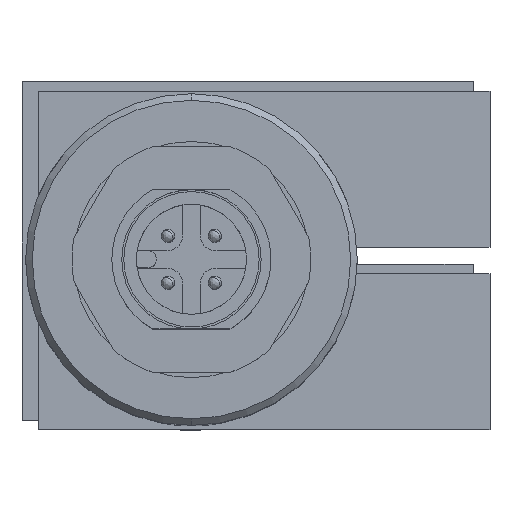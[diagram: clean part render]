
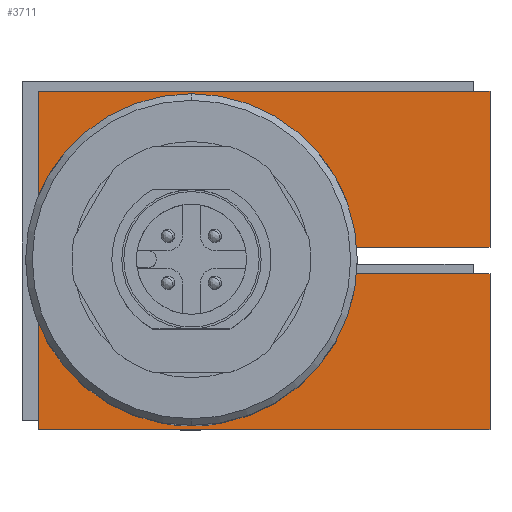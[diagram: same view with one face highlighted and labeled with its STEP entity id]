
A CAD part, top view. The second image highlights one B-rep face of the part: STEP entity #3711.
In plain terms, the highlighted planar face has unit normal (0, 0, 1).
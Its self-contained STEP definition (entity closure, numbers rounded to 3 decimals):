
#5 = EDGE_CURVE ( 'NONE', #8824, #1997, #2576, .T. ) ;
#9 = CARTESIAN_POINT ( 'NONE',  ( 0., 0., 6.5 ) ) ;
#60 = AXIS2_PLACEMENT_3D ( 'NONE', #8881, #8057, #2096 ) ;
#245 = LINE ( 'NONE', #1201, #9415 ) ;
#268 = CARTESIAN_POINT ( 'NONE',  ( 1., 9.397, 6.5 ) ) ;
#273 = CIRCLE ( 'NONE', #2871, 9.45 ) ;
#607 = CARTESIAN_POINT ( 'NONE',  ( 0., 0., 6.5 ) ) ;
#1064 = LINE ( 'NONE', #6026, #10235 ) ;
#1201 = CARTESIAN_POINT ( 'NONE',  ( -1., 9.397, 6.5 ) ) ;
#1236 = DIRECTION ( 'NONE',  ( 1., 0., 0. ) ) ;
#1545 = CARTESIAN_POINT ( 'NONE',  ( -1., 22.5, 6.5 ) ) ;
#1997 = VERTEX_POINT ( 'NONE', #7879 ) ;
#1999 = EDGE_CURVE ( 'NONE', #1997, #3029, #1064, .T. ) ;
#2019 = VECTOR ( 'NONE', #8286, 1000. ) ;
#2096 = DIRECTION ( 'NONE',  ( 1., 0., 0. ) ) ;
#2149 = CARTESIAN_POINT ( 'NONE',  ( -1., 9.397, 6.5 ) ) ;
#2212 = EDGE_CURVE ( 'NONE', #5196, #4383, #6785, .T. ) ;
#2576 = LINE ( 'NONE', #8667, #4838 ) ;
#2847 = CARTESIAN_POINT ( 'NONE',  ( 1., 9.397, 6.5 ) ) ;
#2852 = CIRCLE ( 'NONE', #8433, 9.45 ) ;
#2871 = AXIS2_PLACEMENT_3D ( 'NONE', #6399, #10047, #7434 ) ;
#2986 = AXIS2_PLACEMENT_3D ( 'NONE', #9, #5369, #1236 ) ;
#3029 = VERTEX_POINT ( 'NONE', #7183 ) ;
#3213 = FACE_OUTER_BOUND ( 'NONE', #5619, .T. ) ;
#3353 = ORIENTED_EDGE ( 'NONE', *, *, #5, .T. ) ;
#3367 = DIRECTION ( 'NONE',  ( 0., 1., 0. ) ) ;
#3451 = VERTEX_POINT ( 'NONE', #1545 ) ;
#3512 = CARTESIAN_POINT ( 'NONE',  ( -12.75, -11.5, 6.5 ) ) ;
#3560 = PLANE ( 'NONE',  #60 ) ;
#3636 = EDGE_CURVE ( 'NONE', #3451, #3672, #8776, .T. ) ;
#3672 = VERTEX_POINT ( 'NONE', #7339 ) ;
#3711 = ADVANCED_FACE ( 'NONE', ( #3213 ), #3560, .T. ) ;
#3744 = VECTOR ( 'NONE', #11291, 1000. ) ;
#3747 = ORIENTED_EDGE ( 'NONE', *, *, #1999, .T. ) ;
#4310 = VECTOR ( 'NONE', #6264, 1000. ) ;
#4383 = VERTEX_POINT ( 'NONE', #268 ) ;
#4386 = EDGE_CURVE ( 'NONE', #6234, #5641, #273, .T. ) ;
#4415 = CARTESIAN_POINT ( 'NONE',  ( -9.45, 0., 6.5 ) ) ;
#4586 = ORIENTED_EDGE ( 'NONE', *, *, #6146, .T. ) ;
#4705 = EDGE_CURVE ( 'NONE', #3029, #5196, #11099, .T. ) ;
#4833 = EDGE_CURVE ( 'NONE', #3672, #8824, #5547, .T. ) ;
#4838 = VECTOR ( 'NONE', #10792, 1000. ) ;
#4945 = CARTESIAN_POINT ( 'NONE',  ( 9.45, 0., 6.5 ) ) ;
#5060 = CARTESIAN_POINT ( 'NONE',  ( -12.75, 22.5, 6.5 ) ) ;
#5196 = VERTEX_POINT ( 'NONE', #5316 ) ;
#5316 = CARTESIAN_POINT ( 'NONE',  ( 1., 22.5, 6.5 ) ) ;
#5369 = DIRECTION ( 'NONE',  ( 0., 0., -1. ) ) ;
#5507 = VERTEX_POINT ( 'NONE', #4945 ) ;
#5547 = LINE ( 'NONE', #10892, #10266 ) ;
#5619 = EDGE_LOOP ( 'NONE', ( #3747, #10689, #6239, #8426, #8584, #7451, #4586, #8758, #6523, #3353 ) ) ;
#5641 = VERTEX_POINT ( 'NONE', #2149 ) ;
#5844 = DIRECTION ( 'NONE',  ( 0., -1., 0. ) ) ;
#6026 = CARTESIAN_POINT ( 'NONE',  ( 12.75, -11.5, 6.5 ) ) ;
#6146 = EDGE_CURVE ( 'NONE', #5641, #3451, #245, .T. ) ;
#6234 = VERTEX_POINT ( 'NONE', #4415 ) ;
#6239 = ORIENTED_EDGE ( 'NONE', *, *, #2212, .T. ) ;
#6264 = DIRECTION ( 'NONE',  ( -1., 0., 0. ) ) ;
#6316 = CIRCLE ( 'NONE', #2986, 9.45 ) ;
#6399 = CARTESIAN_POINT ( 'NONE',  ( 0., 0., 6.5 ) ) ;
#6523 = ORIENTED_EDGE ( 'NONE', *, *, #4833, .T. ) ;
#6785 = LINE ( 'NONE', #2847, #2019 ) ;
#6811 = EDGE_CURVE ( 'NONE', #4383, #5507, #2852, .T. ) ;
#7183 = CARTESIAN_POINT ( 'NONE',  ( 12.75, 22.5, 6.5 ) ) ;
#7339 = CARTESIAN_POINT ( 'NONE',  ( -12.75, 22.5, 6.5 ) ) ;
#7434 = DIRECTION ( 'NONE',  ( 1., 0., 0. ) ) ;
#7451 = ORIENTED_EDGE ( 'NONE', *, *, #4386, .T. ) ;
#7879 = CARTESIAN_POINT ( 'NONE',  ( 12.75, -11.5, 6.5 ) ) ;
#8041 = EDGE_CURVE ( 'NONE', #5507, #6234, #6316, .T. ) ;
#8057 = DIRECTION ( 'NONE',  ( 0., 0., 1. ) ) ;
#8286 = DIRECTION ( 'NONE',  ( 0., -1., 0. ) ) ;
#8353 = DIRECTION ( 'NONE',  ( 0., 1., 0. ) ) ;
#8426 = ORIENTED_EDGE ( 'NONE', *, *, #6811, .T. ) ;
#8433 = AXIS2_PLACEMENT_3D ( 'NONE', #607, #10868, #9678 ) ;
#8584 = ORIENTED_EDGE ( 'NONE', *, *, #8041, .T. ) ;
#8667 = CARTESIAN_POINT ( 'NONE',  ( -12.75, -11.5, 6.5 ) ) ;
#8758 = ORIENTED_EDGE ( 'NONE', *, *, #3636, .T. ) ;
#8776 = LINE ( 'NONE', #5060, #3744 ) ;
#8824 = VERTEX_POINT ( 'NONE', #3512 ) ;
#8881 = CARTESIAN_POINT ( 'NONE',  ( 0., 0., 6.5 ) ) ;
#9415 = VECTOR ( 'NONE', #8353, 1000. ) ;
#9678 = DIRECTION ( 'NONE',  ( 1., 0., 0. ) ) ;
#9831 = CARTESIAN_POINT ( 'NONE',  ( 12.75, 22.5, 6.5 ) ) ;
#10047 = DIRECTION ( 'NONE',  ( 0., 0., -1. ) ) ;
#10235 = VECTOR ( 'NONE', #3367, 1000. ) ;
#10266 = VECTOR ( 'NONE', #5844, 1000. ) ;
#10689 = ORIENTED_EDGE ( 'NONE', *, *, #4705, .T. ) ;
#10792 = DIRECTION ( 'NONE',  ( 1., 0., 0. ) ) ;
#10868 = DIRECTION ( 'NONE',  ( 0., 0., -1. ) ) ;
#10892 = CARTESIAN_POINT ( 'NONE',  ( -12.75, -11.5, 6.5 ) ) ;
#11099 = LINE ( 'NONE', #9831, #4310 ) ;
#11291 = DIRECTION ( 'NONE',  ( -1., 0., 0. ) ) ;
